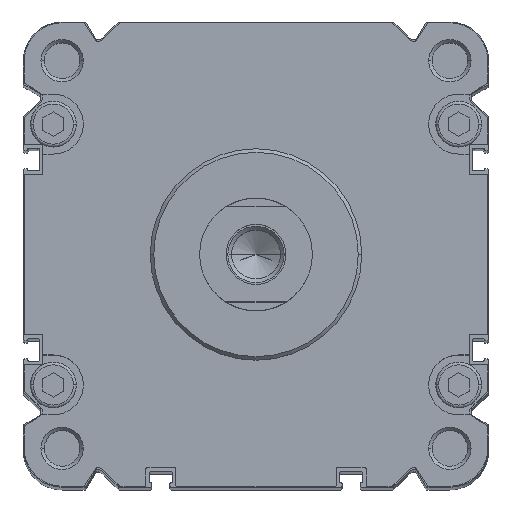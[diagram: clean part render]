
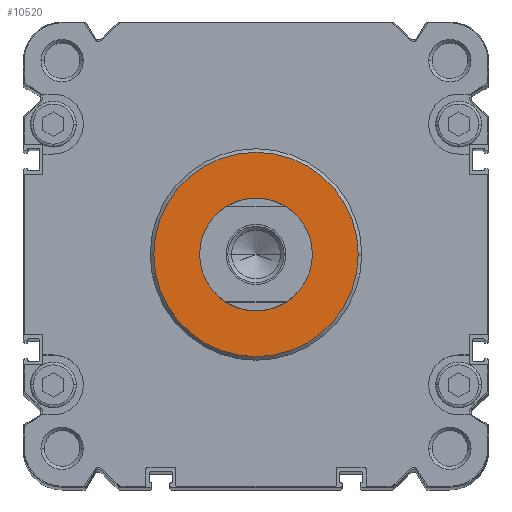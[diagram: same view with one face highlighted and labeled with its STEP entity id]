
A CAD part, top view. The second image highlights one B-rep face of the part: STEP entity #10520.
In plain terms, the highlighted planar face has unit normal (0, 0, 1).
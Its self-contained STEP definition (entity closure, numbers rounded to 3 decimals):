
#24 = DIRECTION ( 'NONE',  ( 0., 0., -1. ) ) ;
#537 = EDGE_CURVE ( 'NONE', #2135, #8797, #4739, .T. ) ;
#665 = FACE_BOUND ( 'NONE', #12050, .T. ) ;
#1118 = EDGE_CURVE ( 'NONE', #20735, #4953, #12672, .T. ) ;
#1505 = DIRECTION ( 'NONE',  ( 0., 0., -1. ) ) ;
#1823 = ORIENTED_EDGE ( 'NONE', *, *, #1118, .F. ) ;
#1986 = EDGE_CURVE ( 'NONE', #4953, #20735, #9904, .T. ) ;
#2135 = VERTEX_POINT ( 'NONE', #16858 ) ;
#2946 = CARTESIAN_POINT ( 'NONE',  ( -29., 0., 4. ) ) ;
#3169 = EDGE_LOOP ( 'NONE', ( #3913, #1823 ) ) ;
#3710 = AXIS2_PLACEMENT_3D ( 'NONE', #8907, #7417, #13923 ) ;
#3913 = ORIENTED_EDGE ( 'NONE', *, *, #1986, .F. ) ;
#4093 = DIRECTION ( 'NONE',  ( 0., 0., -1. ) ) ;
#4496 = ORIENTED_EDGE ( 'NONE', *, *, #537, .T. ) ;
#4739 = CIRCLE ( 'NONE', #3710, 16. ) ;
#4953 = VERTEX_POINT ( 'NONE', #14205 ) ;
#5056 = DIRECTION ( 'NONE',  ( 1., 0., 0. ) ) ;
#5444 = AXIS2_PLACEMENT_3D ( 'NONE', #14536, #1505, #6408 ) ;
#6116 = CIRCLE ( 'NONE', #7492, 16. ) ;
#6408 = DIRECTION ( 'NONE',  ( 1., 0., 0. ) ) ;
#7082 = FACE_OUTER_BOUND ( 'NONE', #3169, .T. ) ;
#7197 = DIRECTION ( 'NONE',  ( -1., 0., 0. ) ) ;
#7417 = DIRECTION ( 'NONE',  ( 0., 0., -1. ) ) ;
#7492 = AXIS2_PLACEMENT_3D ( 'NONE', #17134, #4093, #10633 ) ;
#8386 = CARTESIAN_POINT ( 'NONE',  ( 0., 0., 4. ) ) ;
#8797 = VERTEX_POINT ( 'NONE', #14604 ) ;
#8907 = CARTESIAN_POINT ( 'NONE',  ( 0., 0., 4. ) ) ;
#9904 = CIRCLE ( 'NONE', #5444, 29. ) ;
#10520 = ADVANCED_FACE ( 'NONE', ( #7082, #665 ), #13716, .T. ) ;
#10633 = DIRECTION ( 'NONE',  ( 1., 0., 0. ) ) ;
#12050 = EDGE_LOOP ( 'NONE', ( #17905, #4496 ) ) ;
#12672 = CIRCLE ( 'NONE', #15398, 29. ) ;
#13716 = PLANE ( 'NONE',  #13852 ) ;
#13852 = AXIS2_PLACEMENT_3D ( 'NONE', #15097, #20002, #7197 ) ;
#13923 = DIRECTION ( 'NONE',  ( 1., 0., 0. ) ) ;
#14205 = CARTESIAN_POINT ( 'NONE',  ( 29., 0., 4. ) ) ;
#14536 = CARTESIAN_POINT ( 'NONE',  ( 0., 0., 4. ) ) ;
#14604 = CARTESIAN_POINT ( 'NONE',  ( 16., 0., 4. ) ) ;
#15097 = CARTESIAN_POINT ( 'NONE',  ( 0., -29., 4. ) ) ;
#15398 = AXIS2_PLACEMENT_3D ( 'NONE', #8386, #24, #5056 ) ;
#16858 = CARTESIAN_POINT ( 'NONE',  ( -16., 0., 4. ) ) ;
#17134 = CARTESIAN_POINT ( 'NONE',  ( 0., 0., 4. ) ) ;
#17905 = ORIENTED_EDGE ( 'NONE', *, *, #17963, .T. ) ;
#17963 = EDGE_CURVE ( 'NONE', #8797, #2135, #6116, .T. ) ;
#20002 = DIRECTION ( 'NONE',  ( 0., 0., 1. ) ) ;
#20735 = VERTEX_POINT ( 'NONE', #2946 ) ;
